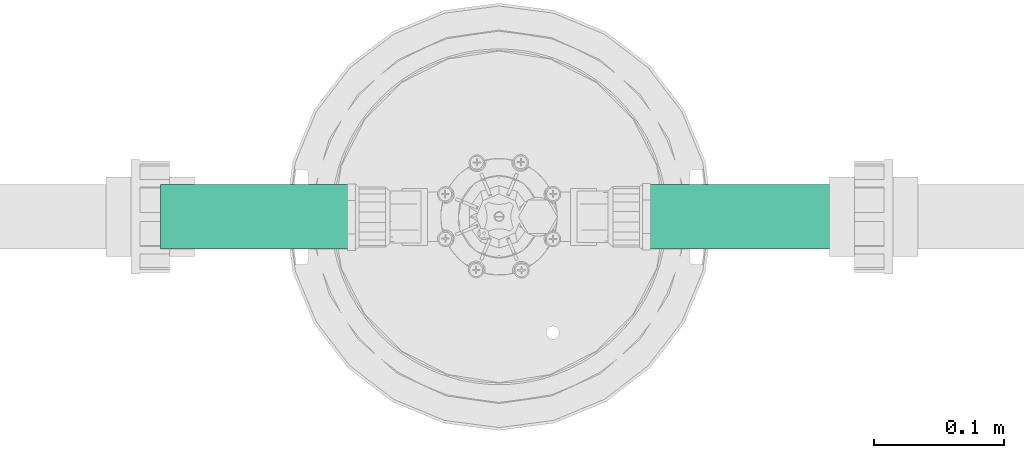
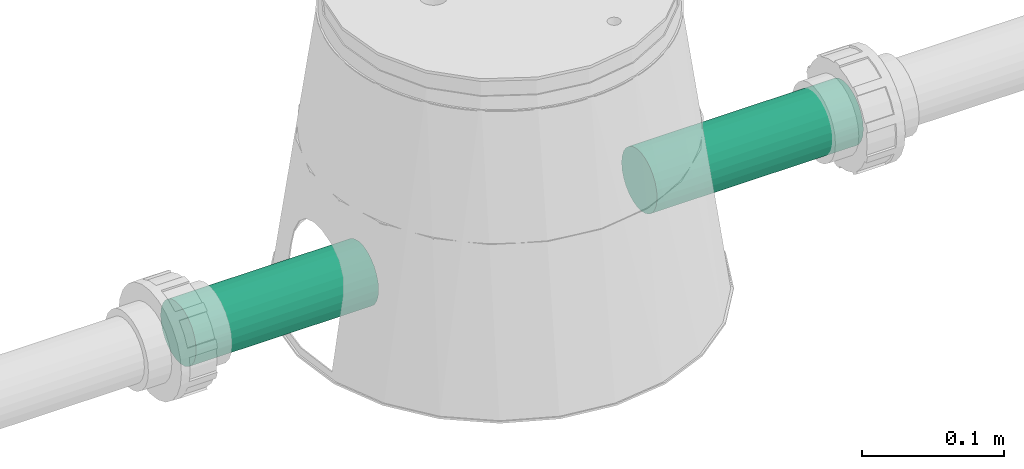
# One storey, part 50 of 166: 2 flow segments.
"""IFC2X3 building model written with IfcOpenShell, lengths in metres."""

import ifcopenshell
import ifcopenshell.guid

model = None  # the IFC model being written
_history = None  # IfcOwnerHistory: only IFC2X3 demands one
_inside = {}  # id of a spatial element -> (the spatial element, [elements in it])
_under = {}  # id of a project, library or spatial element -> (it, [spatial elements below it])
_declared = {}  # id of a project -> (the project, [libraries it declares])
_typed = {}  # id of a type object -> (the type object, [elements of that type])
_made_of = {}  # id of a material, layer set ... -> (it, [elements and type objects made of it])


def new_model(schema):
    """Start an empty IFC model of exactly this schema.

    Asked for "IFC4X3", IfcOpenShell would pick the latest addendum, in which some entities
    have other attributes; the version numbers below select the first issue.
    IFC2X3 requires an IfcOwnerHistory on every rooted entity: one is made here for all.
    """
    global model, _history
    if schema == "IFC4X3":
        model = ifcopenshell.file(schema_version=(4, 3, 0, 0))
    else:
        model = ifcopenshell.file(schema=schema)
    _inside.clear()
    _under.clear()
    _declared.clear()
    _typed.clear()
    _made_of.clear()
    _history = None
    if model.schema == "IFC2X3":
        org = make("IfcOrganization", Name="unknown")
        user = make(
            "IfcPersonAndOrganization",
            ThePerson=make("IfcPerson", FamilyName="unknown"),
            TheOrganization=org,
        )
        app = make(
            "IfcApplication",
            ApplicationDeveloper=org,
            Version="unknown",
            ApplicationFullName="unknown",
            ApplicationIdentifier="unknown",
        )
        _history = make(
            "IfcOwnerHistory",
            OwningUser=user,
            OwningApplication=app,
            ChangeAction="ADDED",
            CreationDate=0,
        )
    return model


def make(cls, **values):
    """One entity of the class cls with the attributes given. An attribute that is None is left unset."""
    return model.create_entity(
        cls, **{name: value for name, value in values.items() if value is not None}
    )


def entity(cls, *values):
    """Any entity or typed value of the class cls, its attributes in the order of the schema. None: left unset."""
    e = model.create_entity(cls)
    for i, value in enumerate(values):
        if value is not None:
            e[i] = value
    return e


def rooted(cls, **values):
    """An entity with a GlobalId (a new one), such as an element, a storey or a relation."""
    return make(cls, GlobalId=ifcopenshell.guid.new(), OwnerHistory=_history, **values)


def si_unit(unit_type, name, prefix=None):
    """IfcSIUnit, for example si_unit("LENGTHUNIT", "METRE", prefix="MILLI")."""
    return make("IfcSIUnit", UnitType=unit_type, Prefix=prefix, Name=name)


def converted_unit(unit_type, name, factor, base, dimensions=None, offset=None):
    """IfcConversionBasedUnit, such as the inch: factor (a typed value) times the base unit."""
    return make(
        "IfcConversionBasedUnit"
        if offset is None
        else "IfcConversionBasedUnitWithOffset",
        ConversionOffset=offset,
        Dimensions=None
        if dimensions is None
        else entity("IfcDimensionalExponents", *dimensions),
        UnitType=unit_type,
        Name=name,
        ConversionFactor=make(
            "IfcMeasureWithUnit", ValueComponent=factor, UnitComponent=base
        ),
    )


def assignment(units):
    """IfcUnitAssignment: the units of a project."""
    return None if units is None else make("IfcUnitAssignment", Units=units)


def point(xyz):
    """IfcCartesianPoint."""
    return None if xyz is None else make("IfcCartesianPoint", Coordinates=xyz)


def direction(xyz):
    """IfcDirection."""
    return None if xyz is None else make("IfcDirection", DirectionRatios=xyz)


def frame(location, z_axis=None, x_axis=None):
    """IfcAxis2Placement3D, a coordinate frame: its origin and axes. An axis left out is left unset."""
    return make(
        "IfcAxis2Placement3D",
        Location=point(location),
        Axis=direction(z_axis),
        RefDirection=direction(x_axis),
    )


def frame_2d(location, x_axis=None):
    """IfcAxis2Placement2D, a coordinate frame in the plane: its origin and x axis."""
    return make(
        "IfcAxis2Placement2D", Location=point(location), RefDirection=direction(x_axis)
    )


def origin():
    """The frame at (0, 0, 0) with its axes left unset."""
    return frame((0.0, 0.0, 0.0))


def place(relative_to, where):
    """IfcLocalPlacement: puts the frame where relative to a parent placement (None: the world)."""
    return make(
        "IfcLocalPlacement", PlacementRelTo=relative_to, RelativePlacement=where
    )


def context(
    kind, dimensions, precision=None, world=None, true_north=None, identifier=None
):
    """IfcGeometricRepresentationContext, for example the 3D "Model" context."""
    return make(
        "IfcGeometricRepresentationContext",
        ContextIdentifier=identifier,
        ContextType=kind,
        CoordinateSpaceDimension=dimensions,
        Precision=precision,
        WorldCoordinateSystem=world,
        TrueNorth=true_north,
    )


def subcontext(parent, identifier, kind, view, scale=None):
    """IfcGeometricRepresentationSubContext, for example "Body" below "Model"."""
    return make(
        "IfcGeometricRepresentationSubContext",
        ContextIdentifier=identifier,
        ContextType=kind,
        ParentContext=parent,
        TargetScale=scale,
        TargetView=view,
    )


def project(units=None, contexts=None):
    """IfcProject with its units and contexts."""
    return rooted(
        "IfcProject",
        Name="project",
        RepresentationContexts=contexts,
        UnitsInContext=assignment(units),
    )


def spatial(cls, under=None, at=None, **own):
    """A site, building, storey or space (cls), placed at a placement, below another one or the project."""
    s = rooted(cls, ObjectPlacement=at, **own)
    if under is not None:
        _under.setdefault(under.id(), (under, []))[1].append(s)
    return s


def profile(cls, at=None, kind="AREA", **sizes):
    """A parametric profile (cls). Its sizes go by their IFC names, for example OverallWidth=200.0."""
    return make(cls, ProfileType=kind, Position=at, **sizes)


def circle(**sizes):
    """IfcCircleProfileDef."""
    return profile("IfcCircleProfileDef", **sizes)


def extrude(swept, where, along, depth):
    """IfcExtrudedAreaSolid: the profile swept, set in the frame where, extruded along a direction by depth."""
    return make(
        "IfcExtrudedAreaSolid",
        SweptArea=swept,
        Position=where,
        ExtrudedDirection=direction(along),
        Depth=depth,
    )


def shape(context_of_items, identifier, shape_type, items):
    """IfcShapeRepresentation: the items that make up one representation, for example the "Body"."""
    return make(
        "IfcShapeRepresentation",
        ContextOfItems=context_of_items,
        RepresentationIdentifier=identifier,
        RepresentationType=shape_type,
        Items=items,
    )


def made_of(thing, what):
    """Note that an element or type object is made of a material, layer set ...; save() writes the relation."""
    if what is not None:
        _made_of.setdefault(what.id(), (what, []))[1].append(thing)
    return thing


def type_object(cls, material=None, **own):
    """A type object (cls), such as IfcWallType, which elements share."""
    return made_of(rooted(cls, **own), material)


def element(
    cls,
    number,
    at=None,
    inside=None,
    cuts=None,
    type_object=None,
    material=None,
    context=None,
    identifier="Body",
    shape_type=None,
    held_by="IfcProductDefinitionShape",
    body=None,
    shapes=None,
    **own,
):
    """One element of the class cls, such as IfcWall. Its Tag is "e" and its number.

    at: its placement. inside: the storey or other place that contains it. cuts: it is an
    opening in that element (IfcRelVoidsElement). A single representation is given by context,
    identifier, shape_type and body (its items); several are given by shapes. held_by: the class
    of the entity that holds the representations. save() writes the other relations.
    """
    e = rooted(cls, Tag="e%d" % number, ObjectPlacement=at, **own)
    if body is not None:
        shapes = [shape(context, identifier, shape_type, body)]
    if shapes is not None:
        e.Representation = make(held_by, Representations=shapes)
    if inside is not None:
        _inside.setdefault(inside.id(), (inside, []))[1].append(e)
    if cuts is not None:
        rooted(
            "IfcRelVoidsElement", RelatingBuildingElement=cuts, RelatedOpeningElement=e
        )
    if type_object is not None:
        _typed.setdefault(type_object.id(), (type_object, []))[1].append(e)
    return made_of(e, material)


def aggregate(whole, parts):
    """IfcRelAggregates: a whole, such as a stair, and the parts it consists of."""
    return rooted("IfcRelAggregates", RelatingObject=whole, RelatedObjects=parts)


def save(model, path):
    """Write the relations noted so far, then the file.

    IfcRelAggregates (storeys below a building ...), IfcRelContainedInSpatialStructure (elements
    in a storey), IfcRelDefinesByType, IfcRelAssociatesMaterial and IfcRelDeclares: one each for
    every whole, place, type object, material and project.
    """
    for whole, parts in _under.values():
        aggregate(whole, parts)
    for where, things in _inside.values():
        rooted(
            "IfcRelContainedInSpatialStructure",
            RelatedElements=things,
            RelatingStructure=where,
        )
    for kind, things in _typed.values():
        rooted("IfcRelDefinesByType", RelatedObjects=things, RelatingType=kind)
    for what, things in _made_of.values():
        rooted("IfcRelAssociatesMaterial", RelatedObjects=things, RelatingMaterial=what)
    for by, libraries in _declared.values():
        rooted("IfcRelDeclares", RelatingContext=by, RelatedDefinitions=libraries)
    model.write(path)


model = new_model("IFC2X3")

# Units and contexts
model_context = context("Model", 3, precision=1e-05, world=origin(), true_north=direction((6.123233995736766e-17, 1.0)))
body_context = subcontext(model_context, "Body", "Model", "MODEL_VIEW")
ifc_project = project(units=[si_unit("LENGTHUNIT", "METRE"), converted_unit("PLANEANGLEUNIT", "DEGREE", entity("IfcPlaneAngleMeasure", 0.017453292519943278), si_unit("PLANEANGLEUNIT", "RADIAN"), dimensions=[0, 0, 0, 0, 0, 0, 0]), si_unit("AREAUNIT", "SQUARE_METRE")], contexts=[model_context])

# Site, building, storey
site_placement = place(None, origin())
site = spatial("IfcSite", under=ifc_project, at=site_placement, Name="Default", CompositionType="ELEMENT")
building_placement = place(site_placement, origin())
building = spatial("IfcBuilding", under=site, at=building_placement, Name="CASA DE ACOLHIDA PARA IDOSOS", CompositionType="ELEMENT")
storey_placement = place(building_placement, frame((0.0, 0.0, -1.7499999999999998)))
storey = spatial("IfcBuildingStorey", under=building, at=storey_placement, Name="IMPLANTAÇÃO DRENAGEM", CompositionType="ELEMENT", Elevation=-1.7499999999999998)

# Flow segments
pipe_segment_type = type_object("IfcPipeSegmentType", Name="Tipos de tubos:AF_Tubo Marrom Soldável", PredefinedType="NOTDEFINED")
flow_segment_1_placement = place(storey_placement, origin())
element("IfcFlowSegment", 1, at=flow_segment_1_placement, inside=storey, type_object=pipe_segment_type, Name="Tipos de tubos:AF_Tubo Marrom Soldável", ObjectType="Tipos de tubos:AF_Tubo Marrom Soldável", context=body_context, shape_type="SweptSolid", body=[
    extrude(circle(Radius=0.025, at=frame_2d((0.0, -2.707167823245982e-16), x_axis=(1.0, 0.0))), frame((-49.400453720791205, -16.745057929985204, -0.2000000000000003), z_axis=(1.0, 0.0, 0.0), x_axis=(0.0, -1.0, 0.0)), (0.0, 0.0, 1.0), 0.1483444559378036),
])
flow_segment_2_placement = place(storey_placement, origin())
element("IfcFlowSegment", 2, at=flow_segment_2_placement, inside=storey, type_object=pipe_segment_type, Name="Tipos de tubos:AF_Tubo Marrom Soldável", ObjectType="Tipos de tubos:AF_Tubo Marrom Soldável", context=body_context, shape_type="SweptSolid", body=[
    extrude(circle(Radius=0.025, at=frame_2d((2.1657342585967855e-15, -5.414335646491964e-16), x_axis=(1.0, 0.0))), frame((-49.0259596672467, -16.745057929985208, -0.2000000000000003), z_axis=(1.0, 0.0, 0.0), x_axis=(0.0, 1.0, 0.0)), (0.0, 0.0, 1.0), 0.16761805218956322),
])

save(model, "model.ifc")
